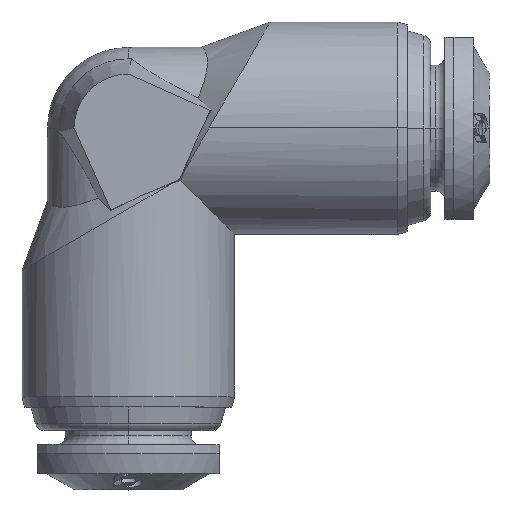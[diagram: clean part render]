
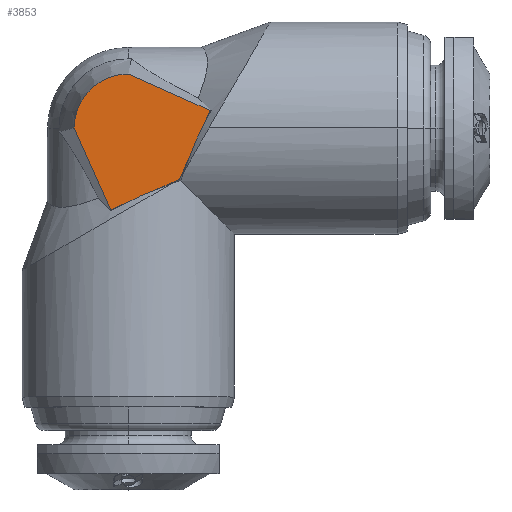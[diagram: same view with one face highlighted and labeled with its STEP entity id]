
A CAD part, top view. The second image highlights one B-rep face of the part: STEP entity #3853.
In plain terms, the highlighted planar face has unit normal (0, 0, 1).
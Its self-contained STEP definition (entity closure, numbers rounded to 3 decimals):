
#573 = CARTESIAN_POINT ( 'NONE',  ( 3.464, -1.468, 5.5 ) ) ;
#574 = CARTESIAN_POINT ( 'NONE',  ( 4.153, 0.079, 5.5 ) ) ;
#1287 = B_SPLINE_CURVE_WITH_KNOTS ( 'NONE', 3,
 ( #6574, #6573, #6579, #6580 ),
 .UNSPECIFIED., .F., .F.,
 ( 4, 4 ),
 ( 0.001, 0.003 ),
 .UNSPECIFIED. ) ;
#3184 = VERTEX_POINT ( 'NONE', #11697 ) ;
#3185 = VERTEX_POINT ( 'NONE', #11693 ) ;
#3187 = VERTEX_POINT ( 'NONE', #11704 ) ;
#3189 = VERTEX_POINT ( 'NONE', #11699 ) ;
#3853 = ADVANCED_FACE ( 'NONE', ( #9923 ), #8992, .T. ) ;
#6573 = CARTESIAN_POINT ( 'NONE',  ( 3.876, -0.413, 5.5 ) ) ;
#6574 = CARTESIAN_POINT ( 'NONE',  ( 4.153, 0.079, 5.5 ) ) ;
#6579 = CARTESIAN_POINT ( 'NONE',  ( 3.647, -0.93, 5.5 ) ) ;
#6580 = CARTESIAN_POINT ( 'NONE',  ( 3.464, -1.468, 5.5 ) ) ;
#7357 = VERTEX_POINT ( 'NONE', #573 ) ;
#7358 = VERTEX_POINT ( 'NONE', #574 ) ;
#8992 = PLANE ( 'NONE',  #12217 ) ;
#9011 = CARTESIAN_POINT ( 'NONE',  ( 0., 0., 5.5 ) ) ;
#9012 = DIRECTION ( 'NONE',  ( 0., 0., 1. ) ) ;
#9013 = DIRECTION ( 'NONE',  ( 1., 0., 0. ) ) ;
#9723 = EDGE_CURVE ( 'NONE', #7358, #7357, #1287, .T. ) ;
#9923 = FACE_OUTER_BOUND ( 'NONE', #10400, .T. ) ;
#10400 = EDGE_LOOP ( 'NONE', ( #23910, #23911, #23912, #23913, #23914, #23915, #23916, #23917, #23918 ) ) ;
#11693 = CARTESIAN_POINT ( 'NONE',  ( 2.849, -2.849, 5.5 ) ) ;
#11697 = CARTESIAN_POINT ( 'NONE',  ( 4.551, 0.974, 5.5 ) ) ;
#11699 = CARTESIAN_POINT ( 'NONE',  ( -3., 0., 5.5 ) ) ;
#11704 = CARTESIAN_POINT ( 'NONE',  ( 0., 3., 5.5 ) ) ;
#12217 = AXIS2_PLACEMENT_3D ( 'NONE', #9011, #9012, #9013 ) ;
#14706 = CARTESIAN_POINT ( 'NONE',  ( 1.468, -3.464, 5.5 ) ) ;
#14715 = CARTESIAN_POINT ( 'NONE',  ( -0.079, -4.153, 5.5 ) ) ;
#14722 = CARTESIAN_POINT ( 'NONE',  ( -0.974, -4.551, 5.5 ) ) ;
#16608 = LINE ( 'NONE', #17615, #16613 ) ;
#16610 = LINE ( 'NONE', #17614, #16615 ) ;
#16613 = VECTOR ( 'NONE', #17623, 1000. ) ;
#16615 = VECTOR ( 'NONE', #17627, 1000. ) ;
#16616 = LINE ( 'NONE', #17633, #16619 ) ;
#16619 = VECTOR ( 'NONE', #17635, 1000. ) ;
#16620 = LINE ( 'NONE', #17640, #16623 ) ;
#16622 = CIRCLE ( 'NONE', #18438, 3. ) ;
#16623 = VECTOR ( 'NONE', #17642, 1000. ) ;
#16624 = LINE ( 'NONE', #17625, #16626 ) ;
#16625 = LINE ( 'NONE', #17653, #16628 ) ;
#16626 = VECTOR ( 'NONE', #17621, 1000. ) ;
#16628 = VECTOR ( 'NONE', #17655, 1000. ) ;
#17473 = CARTESIAN_POINT ( 'NONE',  ( 0.932, -3.647, 5.5 ) ) ;
#17474 = CARTESIAN_POINT ( 'NONE',  ( 1.468, -3.464, 5.5 ) ) ;
#17483 = CARTESIAN_POINT ( 'NONE',  ( 0.416, -3.874, 5.5 ) ) ;
#17485 = CARTESIAN_POINT ( 'NONE',  ( -0.079, -4.153, 5.5 ) ) ;
#17614 = CARTESIAN_POINT ( 'NONE',  ( 4.551, 0.974, 5.5 ) ) ;
#17615 = CARTESIAN_POINT ( 'NONE',  ( 4.551, 0.974, 5.5 ) ) ;
#17621 = DIRECTION ( 'NONE',  ( 0.407, -0.914, 0. ) ) ;
#17623 = DIRECTION ( 'NONE',  ( 0.407, 0.914, 0. ) ) ;
#17625 = CARTESIAN_POINT ( 'NONE',  ( -0.974, -4.551, 5.5 ) ) ;
#17627 = DIRECTION ( 'NONE',  ( 0.407, 0.914, 0. ) ) ;
#17633 = CARTESIAN_POINT ( 'NONE',  ( 2.849, -2.849, 5.5 ) ) ;
#17635 = DIRECTION ( 'NONE',  ( 0.914, 0.407, 0. ) ) ;
#17640 = CARTESIAN_POINT ( 'NONE',  ( 0., 3., 5.5 ) ) ;
#17642 = DIRECTION ( 'NONE',  ( -0.914, 0.407, 0. ) ) ;
#17648 = CARTESIAN_POINT ( 'NONE',  ( 0., 0., 5.5 ) ) ;
#17649 = DIRECTION ( 'NONE',  ( 0., 0., 1. ) ) ;
#17651 = DIRECTION ( 'NONE',  ( 1., 0., 0. ) ) ;
#17653 = CARTESIAN_POINT ( 'NONE',  ( 2.849, -2.849, 5.5 ) ) ;
#17655 = DIRECTION ( 'NONE',  ( 0.914, 0.407, 0. ) ) ;
#18340 = B_SPLINE_CURVE_WITH_KNOTS ( 'NONE', 3,
 ( #17474, #17473, #17483, #17485 ),
 .UNSPECIFIED., .F., .F.,
 ( 4, 4 ),
 ( 0.001, 0.002 ),
 .UNSPECIFIED. ) ;
#18438 = AXIS2_PLACEMENT_3D ( 'NONE', #17648, #17649, #17651 ) ;
#23910 = ORIENTED_EDGE ( 'NONE', *, *, #9723, .F. ) ;
#23911 = ORIENTED_EDGE ( 'NONE', *, *, #29794, .T. ) ;
#23912 = ORIENTED_EDGE ( 'NONE', *, *, #29799, .T. ) ;
#23913 = ORIENTED_EDGE ( 'NONE', *, *, #29800, .T. ) ;
#23914 = ORIENTED_EDGE ( 'NONE', *, *, #29801, .T. ) ;
#23915 = ORIENTED_EDGE ( 'NONE', *, *, #29797, .T. ) ;
#23916 = ORIENTED_EDGE ( 'NONE', *, *, #29777, .F. ) ;
#23917 = ORIENTED_EDGE ( 'NONE', *, *, #29802, .T. ) ;
#23918 = ORIENTED_EDGE ( 'NONE', *, *, #29795, .T. ) ;
#28518 = VERTEX_POINT ( 'NONE', #14706 ) ;
#28527 = VERTEX_POINT ( 'NONE', #14715 ) ;
#28534 = VERTEX_POINT ( 'NONE', #14722 ) ;
#29777 = EDGE_CURVE ( 'NONE', #28518, #28527, #18340, .T. ) ;
#29794 = EDGE_CURVE ( 'NONE', #7358, #3184, #16608, .T. ) ;
#29795 = EDGE_CURVE ( 'NONE', #3185, #7357, #16610, .T. ) ;
#29797 = EDGE_CURVE ( 'NONE', #28534, #28527, #16616, .T. ) ;
#29799 = EDGE_CURVE ( 'NONE', #3184, #3187, #16620, .T. ) ;
#29800 = EDGE_CURVE ( 'NONE', #3187, #3189, #16622, .T. ) ;
#29801 = EDGE_CURVE ( 'NONE', #3189, #28534, #16624, .T. ) ;
#29802 = EDGE_CURVE ( 'NONE', #28518, #3185, #16625, .T. ) ;
